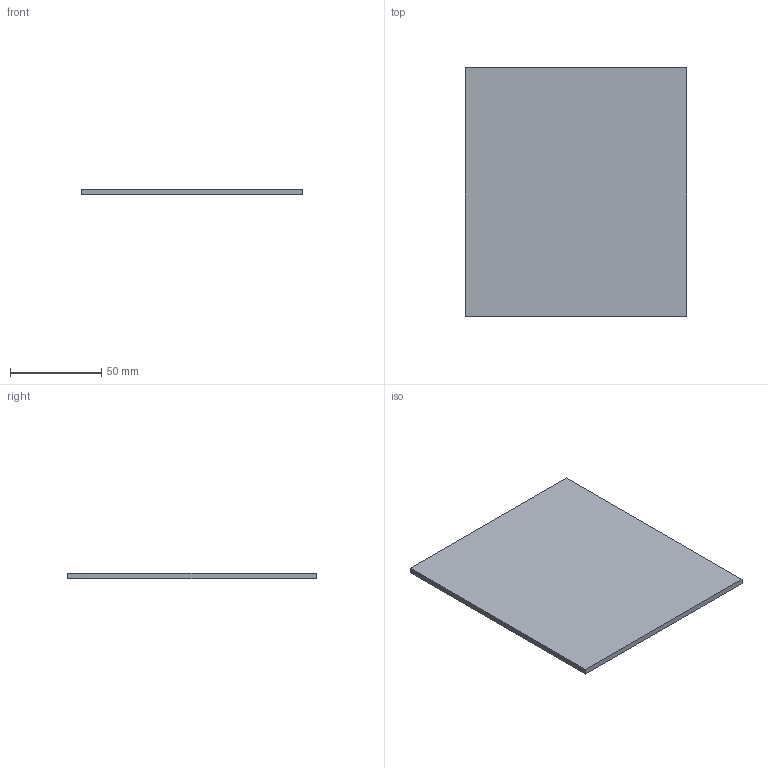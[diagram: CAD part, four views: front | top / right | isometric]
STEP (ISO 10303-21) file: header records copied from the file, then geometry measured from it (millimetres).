
FILE_DESCRIPTION(('Open CASCADE Model'),'2;1');
FILE_NAME('Open CASCADE Shape Model','2026-10-04T01:02:36',('Author'),( 'Open CASCADE'),'Open CASCADE STEP processor 8.0','Open CASCADE 8.0' ,'Unknown');
FILE_SCHEMA(('AUTOMOTIVE_DESIGN { 1 0 10303 214 1 1 1 1 }'));
Length unit declared in the file: millimetre
Products named in the file (1): Open CASCADE STEP translator 8.0 399
Bounding box: 121 x 136 x 3 mm (x, y, z)
Volume: 49368 mm3; surface area: 34454 mm2
Topology: 1 solids, 1 shells, 6 faces, 12 edges, 8 vertices
Faces by surface type: plane 6
Entity records: 322 total; most frequent: CARTESIAN_POINT 51, DIRECTION 50, LINE 36, VECTOR 36, ORIENTED_EDGE 24, PCURVE 24, DEFINITIONAL_REPRESENTATION 24, EDGE_CURVE 12
